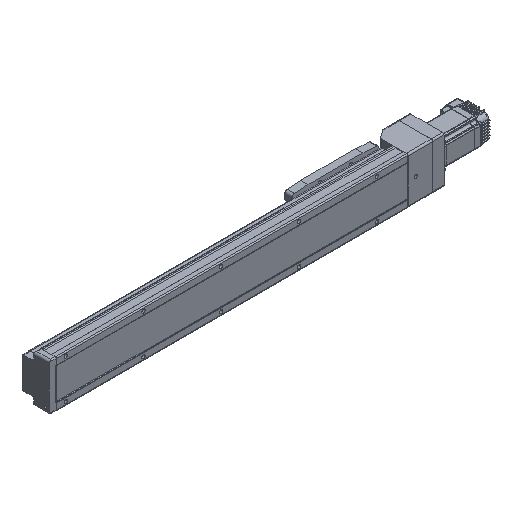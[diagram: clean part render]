
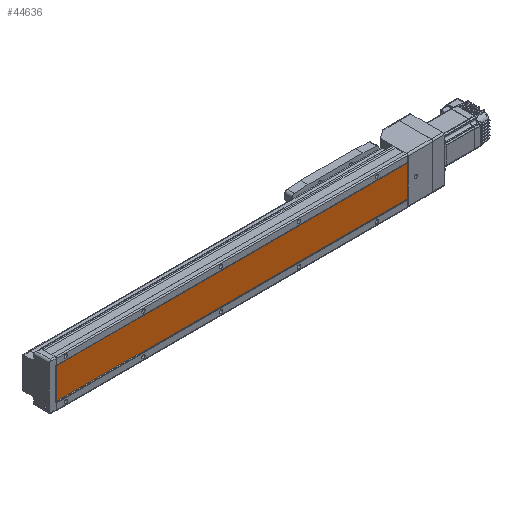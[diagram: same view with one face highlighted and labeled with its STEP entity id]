
A CAD part, isometric view. The second image highlights one B-rep face of the part: STEP entity #44636.
In plain terms, the highlighted planar face has unit normal (0, -1, 0).
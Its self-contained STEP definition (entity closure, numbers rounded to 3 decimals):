
#1096 = EDGE_CURVE ( 'NONE', #56788, #10096, #49364, .T. ) ;
#2813 = ORIENTED_EDGE ( 'NONE', *, *, #14163, .T. ) ;
#3182 = EDGE_LOOP ( 'NONE', ( #24259, #2813, #52072, #16308 ) ) ;
#6572 = CARTESIAN_POINT ( 'NONE',  ( -29.843, 1., 678. ) ) ;
#8592 = VECTOR ( 'NONE', #17446, 1000. ) ;
#8955 = EDGE_CURVE ( 'NONE', #26667, #10096, #52334, .T. ) ;
#9267 = CARTESIAN_POINT ( 'NONE',  ( 29.843, 1., 1378. ) ) ;
#10096 = VERTEX_POINT ( 'NONE', #23531 ) ;
#14163 = EDGE_CURVE ( 'NONE', #40221, #26667, #50609, .T. ) ;
#15274 = DIRECTION ( 'NONE',  ( 1., 0., 0. ) ) ;
#16308 = ORIENTED_EDGE ( 'NONE', *, *, #1096, .F. ) ;
#17446 = DIRECTION ( 'NONE',  ( 1., 0., 0. ) ) ;
#17693 = DIRECTION ( 'NONE',  ( 0., 0., -1. ) ) ;
#19644 = LINE ( 'NONE', #37080, #57152 ) ;
#23531 = CARTESIAN_POINT ( 'NONE',  ( 29.843, 1., 0. ) ) ;
#24259 = ORIENTED_EDGE ( 'NONE', *, *, #39147, .F. ) ;
#26667 = VERTEX_POINT ( 'NONE', #53733 ) ;
#29568 = PLANE ( 'NONE',  #44603 ) ;
#30260 = CARTESIAN_POINT ( 'NONE',  ( -29.843, 1., 0. ) ) ;
#32579 = CARTESIAN_POINT ( 'NONE',  ( -29.843, 1., 1378. ) ) ;
#36427 = CARTESIAN_POINT ( 'NONE',  ( 29.843, 1., 678. ) ) ;
#37080 = CARTESIAN_POINT ( 'NONE',  ( -29.843, 1., 678. ) ) ;
#37980 = FACE_OUTER_BOUND ( 'NONE', #3182, .T. ) ;
#39147 = EDGE_CURVE ( 'NONE', #40221, #56788, #19644, .T. ) ;
#40221 = VERTEX_POINT ( 'NONE', #6572 ) ;
#40556 = VECTOR ( 'NONE', #41000, 1000. ) ;
#41000 = DIRECTION ( 'NONE',  ( 0., 0., -1. ) ) ;
#42337 = DIRECTION ( 'NONE',  ( 0., 1., 0. ) ) ;
#43195 = CARTESIAN_POINT ( 'NONE',  ( -29.843, 1., 1378. ) ) ;
#44603 = AXIS2_PLACEMENT_3D ( 'NONE', #43195, #42337, #55721 ) ;
#44636 = ADVANCED_FACE ( 'NONE', ( #37980 ), #29568, .F. ) ;
#46873 = VECTOR ( 'NONE', #17693, 1000. ) ;
#49364 = LINE ( 'NONE', #9267, #46873 ) ;
#50609 = LINE ( 'NONE', #32579, #40556 ) ;
#52072 = ORIENTED_EDGE ( 'NONE', *, *, #8955, .T. ) ;
#52334 = LINE ( 'NONE', #30260, #8592 ) ;
#53733 = CARTESIAN_POINT ( 'NONE',  ( -29.843, 1., 0. ) ) ;
#55721 = DIRECTION ( 'NONE',  ( 0., 0., 1. ) ) ;
#56788 = VERTEX_POINT ( 'NONE', #36427 ) ;
#57152 = VECTOR ( 'NONE', #15274, 1000. ) ;
